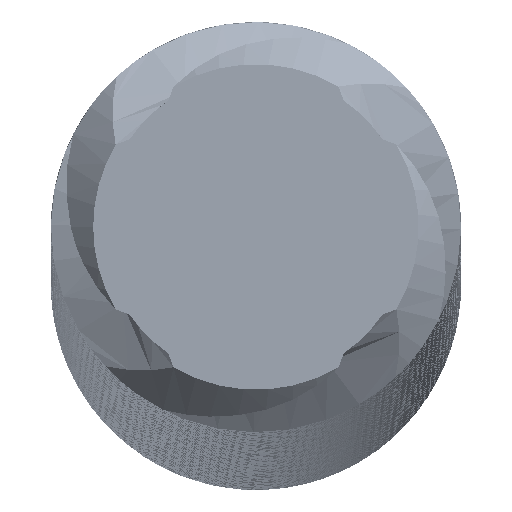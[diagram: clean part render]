
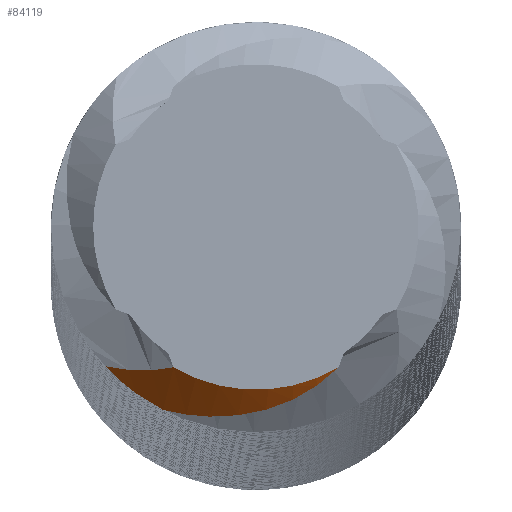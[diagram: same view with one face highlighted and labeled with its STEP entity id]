
A CAD part, top view. The second image highlights one B-rep face of the part: STEP entity #84119.
In plain terms, the highlighted conical face has half-angle 45 degrees and reference radius 7.154 mm.
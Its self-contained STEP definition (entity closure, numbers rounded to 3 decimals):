
#3287 = CARTESIAN_POINT ( 'NONE',  ( 1.608, -2.738, 325. ) ) ;
#3699 = CARTESIAN_POINT ( 'NONE',  ( -1.608, -2.738, 325. ) ) ;
#4951 = ORIENTED_EDGE ( 'NONE', *, *, #64655, .F. ) ;
#8592 = B_SPLINE_CURVE_WITH_KNOTS ( 'NONE', 3,
 ( #30106, #77872, #64462, #37283, #22647, #36980 ),
 .UNSPECIFIED., .F., .F.,
 ( 4, 2, 4 ),
 ( 0., 0.001, 0.002 ),
 .UNSPECIFIED. ) ;
#9783 = DIRECTION ( 'NONE',  ( -1., 0., 0. ) ) ;
#9895 = CARTESIAN_POINT ( 'NONE',  ( -1.815, -3.565, 324.175 ) ) ;
#10467 = CARTESIAN_POINT ( 'NONE',  ( 0.168, -3.576, 324.599 ) ) ;
#10667 = CARTESIAN_POINT ( 'NONE',  ( -2.937, -2.715, 324.175 ) ) ;
#10822 = VERTEX_POINT ( 'NONE', #70863 ) ;
#10827 = B_SPLINE_CURVE_WITH_KNOTS ( 'NONE', 3,
 ( #3287, #17057, #23966, #70820, #64891, #63964, #10467, #66638, #86611, #31421, #58906, #38592 ),
 .UNSPECIFIED., .F., .F.,
 ( 4, 2, 2, 2, 2, 4 ),
 ( 0., 0.001, 0.001, 0.002, 0.003, 0.004 ),
 .UNSPECIFIED. ) ;
#14807 = B_SPLINE_CURVE_WITH_KNOTS ( 'NONE', 3,
 ( #9895, #23102, #64299, #57429 ),
 .UNSPECIFIED., .F., .F.,
 ( 4, 4 ),
 ( 0., 0.001 ),
 .UNSPECIFIED. ) ;
#15371 = CIRCLE ( 'NONE', #66275, 3.175 ) ;
#17057 = CARTESIAN_POINT ( 'NONE',  ( 1.39, -2.956, 324.922 ) ) ;
#18793 = EDGE_LOOP ( 'NONE', ( #4951, #64025, #60303, #30805 ) ) ;
#22647 = CARTESIAN_POINT ( 'NONE',  ( -1.821, -2.783, 324.853 ) ) ;
#23102 = CARTESIAN_POINT ( 'NONE',  ( -2.236, -3.35, 324.175 ) ) ;
#23966 = CARTESIAN_POINT ( 'NONE',  ( 1.147, -3.139, 324.847 ) ) ;
#26842 = EDGE_CURVE ( 'NONE', #10822, #48382, #10827, .T. ) ;
#30106 = CARTESIAN_POINT ( 'NONE',  ( -2.937, -2.715, 324.175 ) ) ;
#30805 = ORIENTED_EDGE ( 'NONE', *, *, #33825, .F. ) ;
#31421 = CARTESIAN_POINT ( 'NONE',  ( -1.207, -3.69, 324.304 ) ) ;
#33825 = EDGE_CURVE ( 'NONE', #47499, #67581, #8592, .T. ) ;
#36980 = CARTESIAN_POINT ( 'NONE',  ( -1.608, -2.738, 325. ) ) ;
#37283 = CARTESIAN_POINT ( 'NONE',  ( -2.042, -2.804, 324.711 ) ) ;
#37618 = CARTESIAN_POINT ( 'NONE',  ( 0., 0., 325. ) ) ;
#37907 = CONICAL_SURFACE ( 'NONE', #55952, 7.153, 0.785 ) ;
#38592 = CARTESIAN_POINT ( 'NONE',  ( -1.815, -3.565, 324.175 ) ) ;
#40407 = EDGE_CURVE ( 'NONE', #10822, #67581, #15371, .T. ) ;
#45874 = CARTESIAN_POINT ( 'NONE',  ( 0., 0., 321.022 ) ) ;
#47499 = VERTEX_POINT ( 'NONE', #10667 ) ;
#48382 = VERTEX_POINT ( 'NONE', #63664 ) ;
#48611 = FACE_OUTER_BOUND ( 'NONE', #18793, .T. ) ;
#55952 = AXIS2_PLACEMENT_3D ( 'NONE', #45874, #79574, #80150 ) ;
#57429 = CARTESIAN_POINT ( 'NONE',  ( -2.937, -2.715, 324.175 ) ) ;
#58906 = CARTESIAN_POINT ( 'NONE',  ( -1.515, -3.646, 324.239 ) ) ;
#60303 = ORIENTED_EDGE ( 'NONE', *, *, #40407, .T. ) ;
#63664 = CARTESIAN_POINT ( 'NONE',  ( -1.815, -3.565, 324.175 ) ) ;
#63964 = CARTESIAN_POINT ( 'NONE',  ( 0.315, -3.532, 324.632 ) ) ;
#64025 = ORIENTED_EDGE ( 'NONE', *, *, #26842, .F. ) ;
#64299 = CARTESIAN_POINT ( 'NONE',  ( -2.617, -3.062, 324.175 ) ) ;
#64462 = CARTESIAN_POINT ( 'NONE',  ( -2.489, -2.797, 324.436 ) ) ;
#64655 = EDGE_CURVE ( 'NONE', #48382, #47499, #14807, .T. ) ;
#64891 = CARTESIAN_POINT ( 'NONE',  ( 0.602, -3.424, 324.701 ) ) ;
#66275 = AXIS2_PLACEMENT_3D ( 'NONE', #37618, #78807, #9783 ) ;
#66638 = CARTESIAN_POINT ( 'NONE',  ( -0.282, -3.675, 324.501 ) ) ;
#67581 = VERTEX_POINT ( 'NONE', #3699 ) ;
#70820 = CARTESIAN_POINT ( 'NONE',  ( 0.743, -3.36, 324.737 ) ) ;
#70863 = CARTESIAN_POINT ( 'NONE',  ( 1.608, -2.738, 325. ) ) ;
#77872 = CARTESIAN_POINT ( 'NONE',  ( -2.715, -2.765, 324.304 ) ) ;
#78807 = DIRECTION ( 'NONE',  ( 0., 0., -1. ) ) ;
#79574 = DIRECTION ( 'NONE',  ( 0., 0., -1. ) ) ;
#80150 = DIRECTION ( 'NONE',  ( -1., 0., 0. ) ) ;
#84119 = ADVANCED_FACE ( 'NONE', ( #48611 ), #37907, .T. ) ;
#86611 = CARTESIAN_POINT ( 'NONE',  ( -0.594, -3.705, 324.435 ) ) ;
